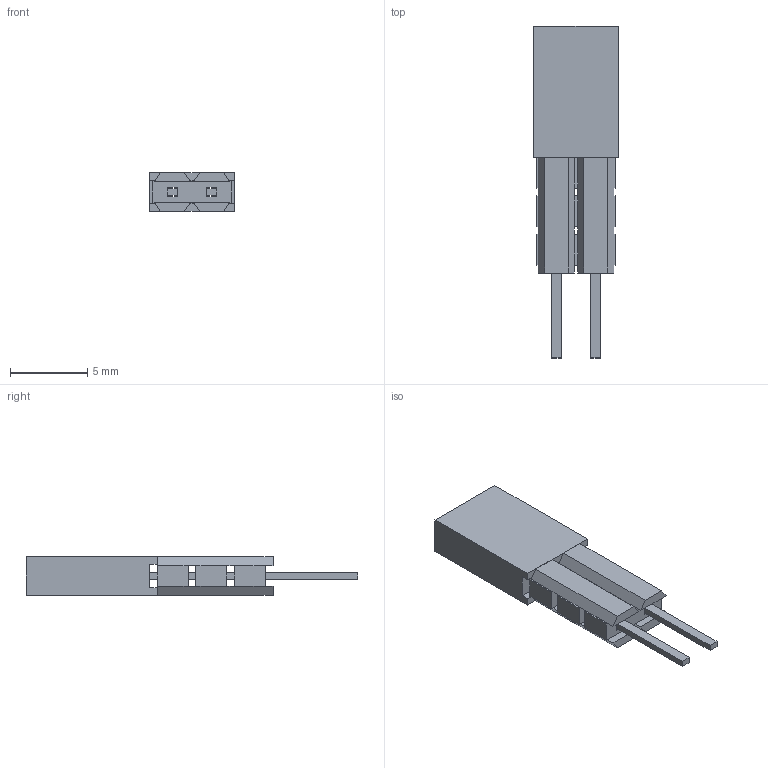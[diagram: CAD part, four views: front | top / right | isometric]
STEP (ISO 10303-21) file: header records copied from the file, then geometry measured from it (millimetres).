
FILE_DESCRIPTION(/* description */ (''),/* implementation_level */ '2;1');
FILE_NAME(/* name */ 'PM254-1-02-Z-C16.0-XX-3LP(L21.5)(2.54 单排 排母 直针 加3层塑胶-HCTL).stp',/* time_stamp */ '2026-10-24T16:02:57+08:00',/* author */ (''),/* organization */ (''),/* preprocessor_version */ 'ST-DEVELOPER v16',/* originating_system */ 'SIEMENS PLM Software NX 10.0',/* authorisation */ '');
FILE_SCHEMA (('AUTOMOTIVE_DESIGN { 1 0 10303 214 3 1 1 1 }'));
Length unit declared in the file: millimetre
Products named in the file (1): PM254-1-N-Z-C16.0-XX-3LP(L21.5)(2.54 单排 排母 
直针 加3层塑胶-HCTL)
Bounding box: 5.48 x 21.5 x 2.5 mm (x, y, z)
Volume: 183.4 mm3; surface area: 465.8 mm2
Topology: 2 solids, 2 shells, 120 faces, 340 edges, 208 vertices
Faces by surface type: plane 120
Entity records: 3829 total; most frequent: ORIENTED_EDGE 680, CARTESIAN_POINT 669, DIRECTION 582, EDGE_CURVE 340, LINE 340, VECTOR 340, VERTEX_POINT 208, EDGE_LOOP 136
